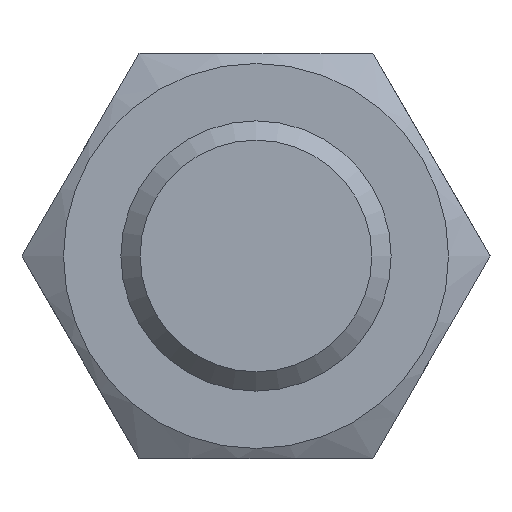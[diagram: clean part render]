
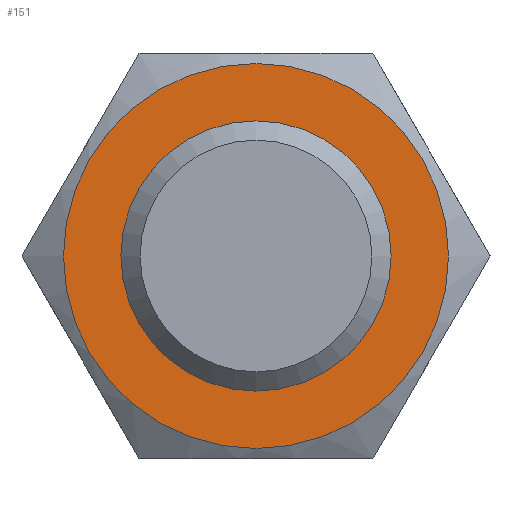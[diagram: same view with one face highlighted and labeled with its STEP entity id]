
A CAD part, left-side view. The second image highlights one B-rep face of the part: STEP entity #151.
In plain terms, the highlighted planar face has unit normal (-1, 0, 0) as drawn and (0, 0, 1) by its records, which use the part's own axes.
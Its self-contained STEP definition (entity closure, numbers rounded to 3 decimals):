
#151=ADVANCED_FACE('',(#462,#464),#466,.T.);
#462=FACE_BOUND('',#463,.T.);
#463=EDGE_LOOP('',(#635));
#464=FACE_BOUND('',#465,.T.);
#465=EDGE_LOOP('',(#636));
#466=PLANE('',#467);
#467=AXIS2_PLACEMENT_3D('',#468,#469,#470);
#468=CARTESIAN_POINT('',(0.,0.,12.8));
#469=DIRECTION('',(0.,0.,1.));
#470=DIRECTION('',(1.,0.,0.));
#635=ORIENTED_EDGE('',*,*,#715,.T.);
#636=ORIENTED_EDGE('',*,*,#716,.T.);
#715=EDGE_CURVE('',#841,#841,#842,.F.);
#716=EDGE_CURVE('',#843,#843,#844,.F.);
#841=VERTEX_POINT('',#2207);
#842=CIRCLE('',#2208,9.975);
#843=VERTEX_POINT('',#2212);
#844=CIRCLE('',#2213,7.);
#2207=CARTESIAN_POINT('',(0.,9.975,12.8));
#2208=AXIS2_PLACEMENT_3D('',#2209,#2210,#2211);
#2209=CARTESIAN_POINT('',(0.,0.,12.8));
#2210=DIRECTION('',(0.,0.,-1.));
#2211=DIRECTION('',(0.,1.,0.));
#2212=CARTESIAN_POINT('',(7.,0.,12.8));
#2213=AXIS2_PLACEMENT_3D('',#2214,#2215,#2216);
#2214=CARTESIAN_POINT('',(0.,0.,12.8));
#2215=DIRECTION('',(0.,0.,1.));
#2216=DIRECTION('',(1.,0.,0.));
